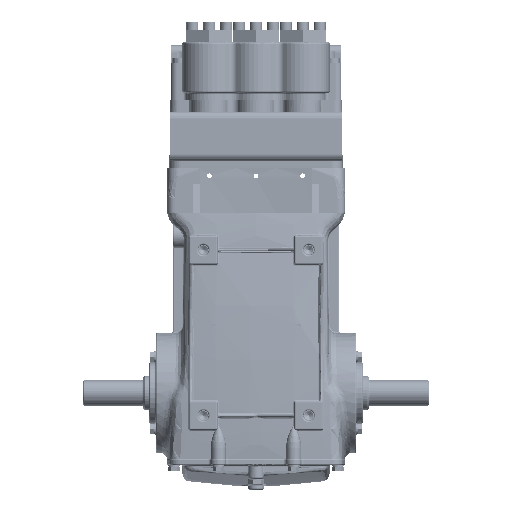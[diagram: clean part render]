
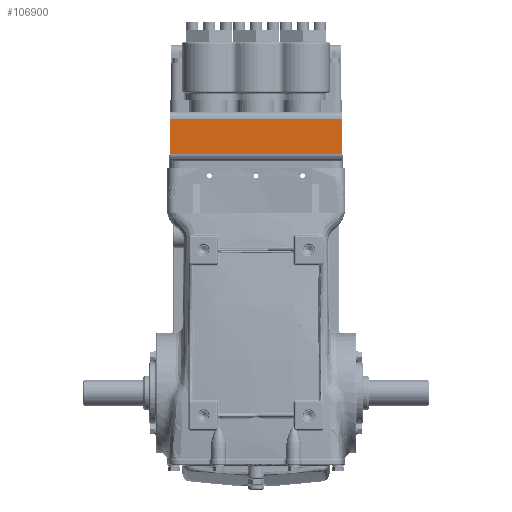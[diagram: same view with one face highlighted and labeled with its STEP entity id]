
A CAD part, front view. The second image highlights one B-rep face of the part: STEP entity #106900.
In plain terms, the highlighted planar face has unit normal (0, -1, 0).
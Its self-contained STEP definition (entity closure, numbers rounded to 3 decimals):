
#3894 = EDGE_CURVE ( 'NONE', #175232, #175230, #92502, .T. ) ;
#3896 = EDGE_CURVE ( 'NONE', #175230, #175233, #92508, .T. ) ;
#3899 = EDGE_CURVE ( 'NONE', #175232, #175235, #92513, .T. ) ;
#3901 = EDGE_CURVE ( 'NONE', #175235, #175233, #92520, .T. ) ;
#7864 = ORIENTED_EDGE ( 'NONE', *, *, #3896, .F. ) ;
#7869 = ORIENTED_EDGE ( 'NONE', *, *, #3899, .T. ) ;
#7871 = ORIENTED_EDGE ( 'NONE', *, *, #3894, .F. ) ;
#7876 = ORIENTED_EDGE ( 'NONE', *, *, #3901, .T. ) ;
#13083 = EDGE_LOOP ( 'NONE', ( #7864, #7871, #7869, #7876 ) ) ;
#65767 = VECTOR ( 'NONE', #92522, 1000. ) ;
#65772 = VECTOR ( 'NONE', #92517, 1000. ) ;
#65776 = VECTOR ( 'NONE', #92512, 1000. ) ;
#65777 = VECTOR ( 'NONE', #92505, 1000. ) ;
#92502 = LINE ( 'NONE', #92504, #65777 ) ;
#92504 = CARTESIAN_POINT ( 'NONE',  ( 114., -113., 318. ) ) ;
#92505 = DIRECTION ( 'NONE',  ( -1., 0., 0. ) ) ;
#92508 = LINE ( 'NONE', #92509, #65776 ) ;
#92509 = CARTESIAN_POINT ( 'NONE',  ( -114., -113., 318. ) ) ;
#92512 = DIRECTION ( 'NONE',  ( 0., 0., 1. ) ) ;
#92513 = LINE ( 'NONE', #92516, #65772 ) ;
#92516 = CARTESIAN_POINT ( 'NONE',  ( 114., -113., 318. ) ) ;
#92517 = DIRECTION ( 'NONE',  ( 0., 0., 1. ) ) ;
#92520 = LINE ( 'NONE', #92521, #65767 ) ;
#92521 = CARTESIAN_POINT ( 'NONE',  ( 114., -113., 364. ) ) ;
#92522 = DIRECTION ( 'NONE',  ( -1., 0., 0. ) ) ;
#106900 = ADVANCED_FACE ( 'NONE', ( #210110 ), #197355, .T. ) ;
#175230 = VERTEX_POINT ( 'NONE', #287560 ) ;
#175232 = VERTEX_POINT ( 'NONE', #287563 ) ;
#175233 = VERTEX_POINT ( 'NONE', #287568 ) ;
#175235 = VERTEX_POINT ( 'NONE', #287571 ) ;
#197355 = PLANE ( 'NONE',  #210129 ) ;
#197356 = CARTESIAN_POINT ( 'NONE',  ( 114., -113., 318. ) ) ;
#197359 = DIRECTION ( 'NONE',  ( 0., -1., 0. ) ) ;
#197360 = DIRECTION ( 'NONE',  ( 0., 0., 1. ) ) ;
#210110 = FACE_OUTER_BOUND ( 'NONE', #13083, .T. ) ;
#210129 = AXIS2_PLACEMENT_3D ( 'NONE', #197356, #197359, #197360 ) ;
#287560 = CARTESIAN_POINT ( 'NONE',  ( -114., -113., 318. ) ) ;
#287563 = CARTESIAN_POINT ( 'NONE',  ( 114., -113., 318. ) ) ;
#287568 = CARTESIAN_POINT ( 'NONE',  ( -114., -113., 364. ) ) ;
#287571 = CARTESIAN_POINT ( 'NONE',  ( 114., -113., 364. ) ) ;
